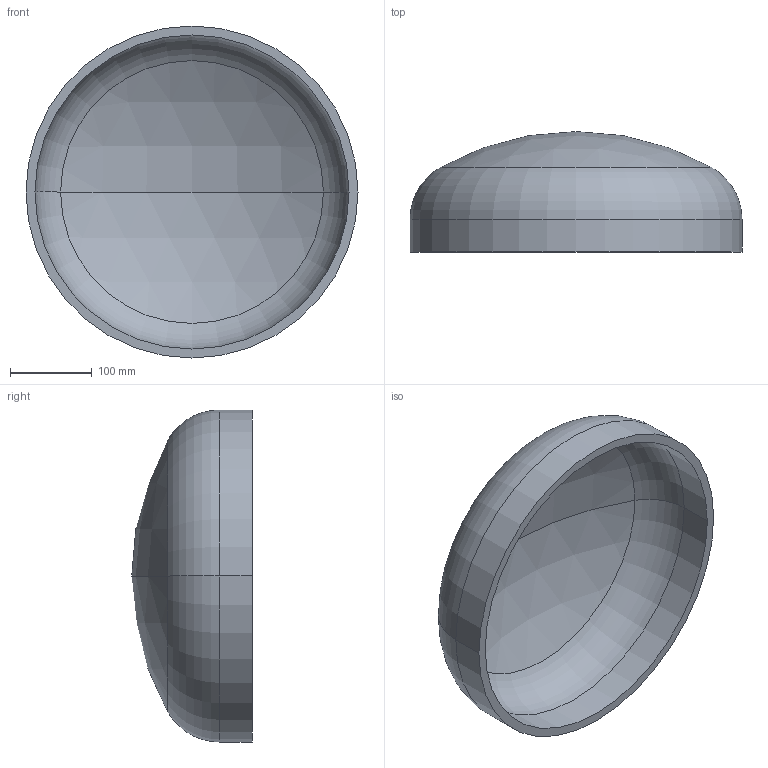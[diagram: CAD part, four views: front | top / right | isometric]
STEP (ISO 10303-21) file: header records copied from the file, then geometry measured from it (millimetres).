
FILE_DESCRIPTION (( 'STEP AP203' ), '1' );
FILE_NAME ('DIN 28013 Korbbogenform_-_Boden DIN 28013 - 406,4 x 40 - I - s=11.step', '2016-07-01T07:48:59', ( '' ), ( '' ), 'SwSTEP 2.0', 'SolidWorks 2013', '' );
FILE_SCHEMA (( 'CONFIG_CONTROL_DESIGN' ));
Length unit declared in the file: millimetre
Products named in the file (1): DIN 28013 Korbbogenform_-_Boden DIN 28013 - 406,4 x 40 - I - s=11
Bounding box: 406.4 x 147.49 x 406.4 mm (x, y, z)
Volume: 2450445.6 mm3; surface area: 459452.9 mm2
Topology: 1 solids, 1 shells, 13 faces, 24 edges, 14 vertices
Faces by surface type: torus 4, cylinder 4, sphere 4, plane 1
Entity records: 407 total; most frequent: DIRECTION 72, CARTESIAN_POINT 52, ORIENTED_EDGE 48, AXIS2_PLACEMENT_3D 34, EDGE_CURVE 24, CIRCLE 20, VERTEX_POINT 14, EDGE_LOOP 14
